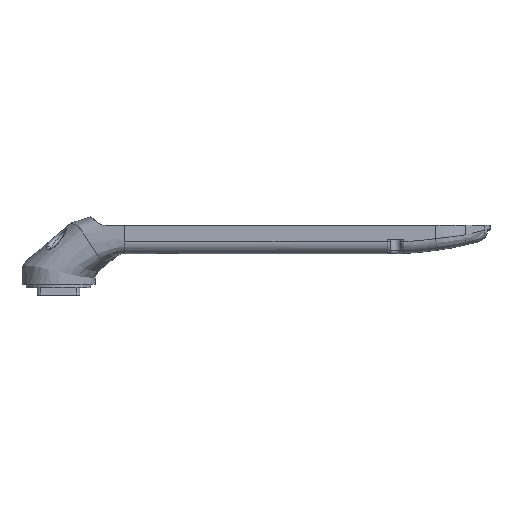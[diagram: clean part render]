
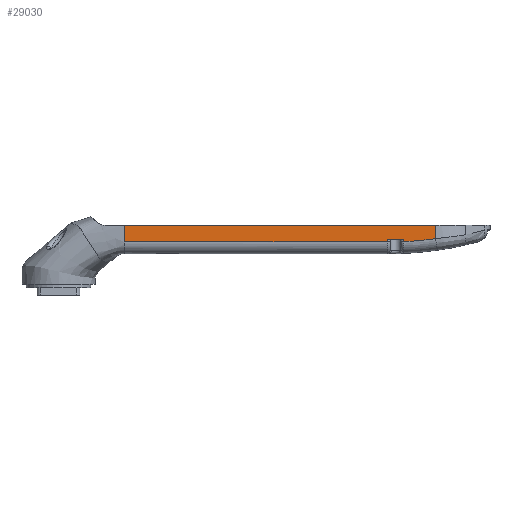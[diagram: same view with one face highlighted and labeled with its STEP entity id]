
A CAD part, front view. The second image highlights one B-rep face of the part: STEP entity #29030.
In plain terms, the highlighted planar face has unit normal (0, -1, 0).
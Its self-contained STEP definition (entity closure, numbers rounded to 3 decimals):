
#22 = VERTEX_POINT ( 'NONE', #18170 ) ;
#1535 = AXIS2_PLACEMENT_3D ( 'NONE', #46635, #34825, #31335 ) ;
#1828 = CARTESIAN_POINT ( 'NONE',  ( -6.853, -18.5, 13.55 ) ) ;
#2420 = CARTESIAN_POINT ( 'NONE',  ( -7., -18.5, 20.45 ) ) ;
#3081 = ORIENTED_EDGE ( 'NONE', *, *, #8444, .T. ) ;
#3124 = DIRECTION ( 'NONE',  ( 0., 0., -1. ) ) ;
#3350 = ORIENTED_EDGE ( 'NONE', *, *, #8133, .F. ) ;
#4321 = DIRECTION ( 'NONE',  ( 1., 0., 0. ) ) ;
#4476 = DIRECTION ( 'NONE',  ( 1., 0., 0. ) ) ;
#4519 = ORIENTED_EDGE ( 'NONE', *, *, #26976, .T. ) ;
#5991 = VECTOR ( 'NONE', #4476, 1000. ) ;
#8133 = EDGE_CURVE ( 'NONE', #50649, #42271, #44837, .T. ) ;
#8196 = CARTESIAN_POINT ( 'NONE',  ( -6., -18.5, 20.45 ) ) ;
#8444 = EDGE_CURVE ( 'NONE', #14891, #42271, #13154, .T. ) ;
#8630 = CARTESIAN_POINT ( 'NONE',  ( -12., -18.5, 132. ) ) ;
#12397 = CIRCLE ( 'NONE', #1535, 141.143 ) ;
#13154 = LINE ( 'NONE', #8196, #23091 ) ;
#14082 = EDGE_CURVE ( 'NONE', #45337, #15908, #37889, .T. ) ;
#14891 = VERTEX_POINT ( 'NONE', #2420 ) ;
#15091 = CARTESIAN_POINT ( 'NONE',  ( -6., -18.5, 132. ) ) ;
#15429 = CARTESIAN_POINT ( 'NONE',  ( -7., -18.5, 132. ) ) ;
#15760 = CARTESIAN_POINT ( 'NONE',  ( -6., -18.5, 20.45 ) ) ;
#15908 = VERTEX_POINT ( 'NONE', #36942 ) ;
#15958 = DIRECTION ( 'NONE',  ( 0., 0., 1. ) ) ;
#16166 = VECTOR ( 'NONE', #15958, 1000. ) ;
#16173 = EDGE_LOOP ( 'NONE', ( #28132, #18319, #20663, #4519, #3081, #3350, #30343, #17449 ) ) ;
#16181 = EDGE_CURVE ( 'NONE', #37947, #22, #12397, .T. ) ;
#17449 = ORIENTED_EDGE ( 'NONE', *, *, #16181, .T. ) ;
#18170 = CARTESIAN_POINT ( 'NONE',  ( -5.576, -18.5, 0. ) ) ;
#18319 = ORIENTED_EDGE ( 'NONE', *, *, #14082, .T. ) ;
#18392 = DIRECTION ( 'NONE',  ( 0., 0., 1. ) ) ;
#18594 = LINE ( 'NONE', #20632, #47806 ) ;
#18666 = EDGE_CURVE ( 'NONE', #22, #45337, #18594, .T. ) ;
#20632 = CARTESIAN_POINT ( 'NONE',  ( -12., -18.5, 0. ) ) ;
#20663 = ORIENTED_EDGE ( 'NONE', *, *, #46593, .F. ) ;
#21562 = VECTOR ( 'NONE', #30505, 1000. ) ;
#21729 = CARTESIAN_POINT ( 'NONE',  ( -6.902, -18.5, 13.55 ) ) ;
#23091 = VECTOR ( 'NONE', #35477, 1000. ) ;
#26976 = EDGE_CURVE ( 'NONE', #30152, #14891, #47339, .T. ) ;
#28132 = ORIENTED_EDGE ( 'NONE', *, *, #18666, .T. ) ;
#28677 = VECTOR ( 'NONE', #18392, 1000. ) ;
#29030 = ADVANCED_FACE ( 'NONE', ( #35495 ), #32304, .T. ) ;
#30152 = VERTEX_POINT ( 'NONE', #38173 ) ;
#30343 = ORIENTED_EDGE ( 'NONE', *, *, #41648, .T. ) ;
#30505 = DIRECTION ( 'NONE',  ( -1., 0., 0. ) ) ;
#31335 = DIRECTION ( 'NONE',  ( 0., 0., -1. ) ) ;
#31424 = CARTESIAN_POINT ( 'NONE',  ( 0., -18.5, 132. ) ) ;
#31777 = VECTOR ( 'NONE', #3124, 1000. ) ;
#32146 = LINE ( 'NONE', #21729, #21562 ) ;
#32304 = PLANE ( 'NONE',  #50867 ) ;
#32990 = DIRECTION ( 'NONE',  ( 0., -1., 0. ) ) ;
#33932 = LINE ( 'NONE', #8630, #5991 ) ;
#34825 = DIRECTION ( 'NONE',  ( 0., -1., 0. ) ) ;
#35477 = DIRECTION ( 'NONE',  ( 1., 0., 0. ) ) ;
#35495 = FACE_OUTER_BOUND ( 'NONE', #16173, .T. ) ;
#36942 = CARTESIAN_POINT ( 'NONE',  ( 0., -18.5, 132. ) ) ;
#37889 = LINE ( 'NONE', #31424, #16166 ) ;
#37947 = VERTEX_POINT ( 'NONE', #1828 ) ;
#38173 = CARTESIAN_POINT ( 'NONE',  ( -7., -18.5, 132. ) ) ;
#41648 = EDGE_CURVE ( 'NONE', #50649, #37947, #32146, .T. ) ;
#42026 = CARTESIAN_POINT ( 'NONE',  ( -6., -18.5, 13.55 ) ) ;
#42271 = VERTEX_POINT ( 'NONE', #15760 ) ;
#44802 = DIRECTION ( 'NONE',  ( 0., 0., -1. ) ) ;
#44837 = LINE ( 'NONE', #15091, #28677 ) ;
#45337 = VERTEX_POINT ( 'NONE', #47595 ) ;
#46593 = EDGE_CURVE ( 'NONE', #30152, #15908, #33932, .T. ) ;
#46635 = CARTESIAN_POINT ( 'NONE',  ( 134.143, -18.5, 20. ) ) ;
#47339 = LINE ( 'NONE', #15429, #31777 ) ;
#47591 = CARTESIAN_POINT ( 'NONE',  ( -12., -18.5, 132. ) ) ;
#47595 = CARTESIAN_POINT ( 'NONE',  ( 0., -18.5, 0. ) ) ;
#47806 = VECTOR ( 'NONE', #4321, 1000. ) ;
#50649 = VERTEX_POINT ( 'NONE', #42026 ) ;
#50867 = AXIS2_PLACEMENT_3D ( 'NONE', #47591, #32990, #44802 ) ;
